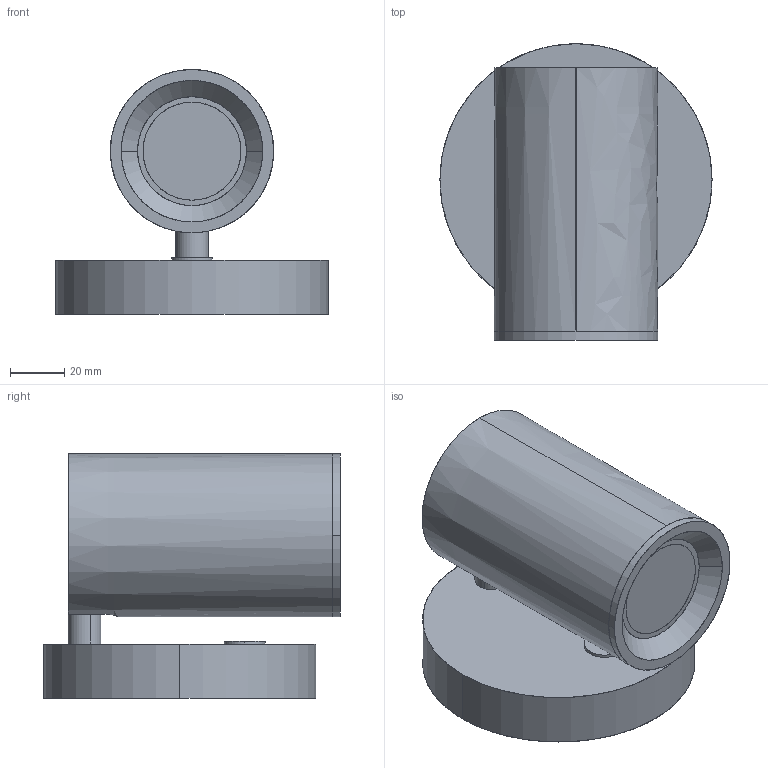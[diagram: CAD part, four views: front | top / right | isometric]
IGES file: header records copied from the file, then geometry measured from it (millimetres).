
Start section: SolidWorks IGES file using analytic representation for surfaces
Global section: file name: D:\3d novedades 2024\3D SS24\A1268_LATTO.IGS; native system: SolidWorks 2018; preprocessor: SolidWorks 2018; author: Agus; date: 240205.124048; units: millimetre
Bounding box: 100 x 109 x 90 mm (x, y, z)
Surface area: 76282.1 mm2 (no closed solid volume)
Topology: 0 solids, 0 shells, 86 faces, 2450 edges, 2447 vertices
Faces by surface type: revolution 51, bspline 35
